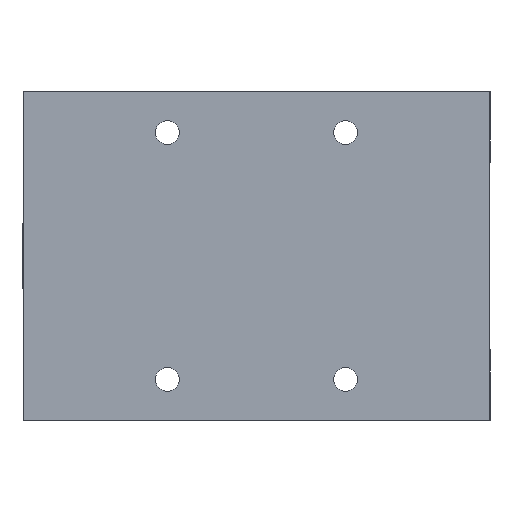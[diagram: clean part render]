
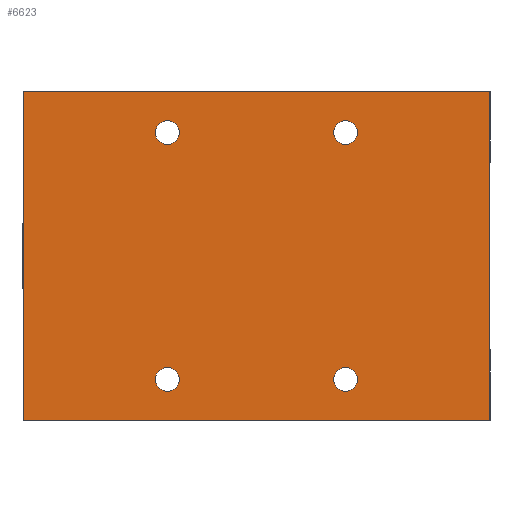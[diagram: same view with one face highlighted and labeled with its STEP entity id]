
A CAD part, front view. The second image highlights one B-rep face of the part: STEP entity #6623.
In plain terms, the highlighted planar face has unit normal (0, -1, 0).
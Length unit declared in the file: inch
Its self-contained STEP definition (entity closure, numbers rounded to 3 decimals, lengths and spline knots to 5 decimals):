
#410 = EDGE_CURVE ( 'NONE', #18102, #18103, #15606, .T. ) ;
#414 = EDGE_CURVE ( 'NONE', #18106, #18107, #15612, .T. ) ;
#436 = EDGE_CURVE ( 'NONE', #18110, #18124, #15642, .T. ) ;
#440 = EDGE_CURVE ( 'NONE', #18126, #18129, #15649, .T. ) ;
#444 = EDGE_CURVE ( 'NONE', #18129, #18126, #15655, .T. ) ;
#446 = EDGE_CURVE ( 'NONE', #18124, #18110, #15660, .T. ) ;
#450 = EDGE_CURVE ( 'NONE', #18064, #18136, #19592, .T. ) ;
#454 = EDGE_CURVE ( 'NONE', #18135, #18064, #19600, .T. ) ;
#457 = EDGE_CURVE ( 'NONE', #18137, #18135, #19603, .T. ) ;
#459 = EDGE_CURVE ( 'NONE', #18136, #18137, #19626, .T. ) ;
#460 = EDGE_CURVE ( 'NONE', #18103, #18102, #15677, .T. ) ;
#461 = EDGE_CURVE ( 'NONE', #18107, #18106, #15678, .T. ) ;
#3626 = AXIS2_PLACEMENT_3D ( 'NONE', #20515, #20518, #20519 ) ;
#4374 = ORIENTED_EDGE ( 'NONE', *, *, #444, .T. ) ;
#4375 = ORIENTED_EDGE ( 'NONE', *, *, #440, .T. ) ;
#4376 = ORIENTED_EDGE ( 'NONE', *, *, #460, .T. ) ;
#4377 = ORIENTED_EDGE ( 'NONE', *, *, #410, .T. ) ;
#4378 = ORIENTED_EDGE ( 'NONE', *, *, #461, .T. ) ;
#4379 = ORIENTED_EDGE ( 'NONE', *, *, #414, .T. ) ;
#4380 = ORIENTED_EDGE ( 'NONE', *, *, #446, .T. ) ;
#4381 = ORIENTED_EDGE ( 'NONE', *, *, #436, .T. ) ;
#4382 = ORIENTED_EDGE ( 'NONE', *, *, #450, .F. ) ;
#4383 = ORIENTED_EDGE ( 'NONE', *, *, #454, .F. ) ;
#4384 = ORIENTED_EDGE ( 'NONE', *, *, #457, .F. ) ;
#4385 = ORIENTED_EDGE ( 'NONE', *, *, #459, .F. ) ;
#6623 = ADVANCED_FACE ( 'NONE', ( #20510, #20512, #20514, #20516, #20509 ), #20511, .T. ) ;
#7923 = CARTESIAN_POINT ( 'NONE',  ( -2.125, -0.625, 1.5 ) ) ;
#7961 = CARTESIAN_POINT ( 'NONE',  ( -0.8125, -0.625, -1.234 ) ) ;
#7962 = CARTESIAN_POINT ( 'NONE',  ( -0.8125, -0.625, -1.016 ) ) ;
#7965 = CARTESIAN_POINT ( 'NONE',  ( 0.8125, -0.625, 1.016 ) ) ;
#7966 = CARTESIAN_POINT ( 'NONE',  ( 0.8125, -0.625, 1.234 ) ) ;
#7969 = CARTESIAN_POINT ( 'NONE',  ( 0.8125, -0.625, -1.234 ) ) ;
#7983 = CARTESIAN_POINT ( 'NONE',  ( 0.8125, -0.625, -1.016 ) ) ;
#7985 = CARTESIAN_POINT ( 'NONE',  ( -0.8125, -0.625, 1.016 ) ) ;
#7988 = CARTESIAN_POINT ( 'NONE',  ( -0.8125, -0.625, 1.234 ) ) ;
#7994 = CARTESIAN_POINT ( 'NONE',  ( -2.125, -0.625, -1.5 ) ) ;
#7995 = CARTESIAN_POINT ( 'NONE',  ( 2.125, -0.625, 1.5 ) ) ;
#7996 = CARTESIAN_POINT ( 'NONE',  ( 2.125, -0.625, -1.5 ) ) ;
#15606 = CIRCLE ( 'NONE', #15611, 0.109 ) ;
#15611 = AXIS2_PLACEMENT_3D ( 'NONE', #19482, #19483, #19484 ) ;
#15612 = CIRCLE ( 'NONE', #15617, 0.109 ) ;
#15617 = AXIS2_PLACEMENT_3D ( 'NONE', #19494, #19495, #19496 ) ;
#15642 = CIRCLE ( 'NONE', #15647, 0.109 ) ;
#15647 = AXIS2_PLACEMENT_3D ( 'NONE', #19559, #19560, #19561 ) ;
#15649 = CIRCLE ( 'NONE', #15653, 0.109 ) ;
#15653 = AXIS2_PLACEMENT_3D ( 'NONE', #19571, #19572, #19573 ) ;
#15655 = CIRCLE ( 'NONE', #15659, 0.109 ) ;
#15659 = AXIS2_PLACEMENT_3D ( 'NONE', #19581, #19582, #19583 ) ;
#15660 = CIRCLE ( 'NONE', #15663, 0.109 ) ;
#15663 = AXIS2_PLACEMENT_3D ( 'NONE', #19589, #19590, #19591 ) ;
#15666 = VECTOR ( 'NONE', #19604, 39.37008 ) ;
#15668 = VECTOR ( 'NONE', #19614, 39.37008 ) ;
#15671 = VECTOR ( 'NONE', #19622, 39.37008 ) ;
#15676 = VECTOR ( 'NONE', #19628, 39.37008 ) ;
#15677 = CIRCLE ( 'NONE', #15679, 0.109 ) ;
#15678 = CIRCLE ( 'NONE', #15681, 0.109 ) ;
#15679 = AXIS2_PLACEMENT_3D ( 'NONE', #19629, #19630, #19631 ) ;
#15681 = AXIS2_PLACEMENT_3D ( 'NONE', #19632, #19633, #19634 ) ;
#18064 = VERTEX_POINT ( 'NONE', #7923 ) ;
#18102 = VERTEX_POINT ( 'NONE', #7961 ) ;
#18103 = VERTEX_POINT ( 'NONE', #7962 ) ;
#18106 = VERTEX_POINT ( 'NONE', #7965 ) ;
#18107 = VERTEX_POINT ( 'NONE', #7966 ) ;
#18110 = VERTEX_POINT ( 'NONE', #7969 ) ;
#18124 = VERTEX_POINT ( 'NONE', #7983 ) ;
#18126 = VERTEX_POINT ( 'NONE', #7985 ) ;
#18129 = VERTEX_POINT ( 'NONE', #7988 ) ;
#18135 = VERTEX_POINT ( 'NONE', #7994 ) ;
#18136 = VERTEX_POINT ( 'NONE', #7995 ) ;
#18137 = VERTEX_POINT ( 'NONE', #7996 ) ;
#19482 = CARTESIAN_POINT ( 'NONE',  ( -0.8125, -0.625, -1.125 ) ) ;
#19483 = DIRECTION ( 'NONE',  ( 0., 1., 0. ) ) ;
#19484 = DIRECTION ( 'NONE',  ( 0., 0., -1. ) ) ;
#19494 = CARTESIAN_POINT ( 'NONE',  ( 0.8125, -0.625, 1.125 ) ) ;
#19495 = DIRECTION ( 'NONE',  ( 0., 1., 0. ) ) ;
#19496 = DIRECTION ( 'NONE',  ( 0., 0., -1. ) ) ;
#19559 = CARTESIAN_POINT ( 'NONE',  ( 0.8125, -0.625, -1.125 ) ) ;
#19560 = DIRECTION ( 'NONE',  ( 0., 1., 0. ) ) ;
#19561 = DIRECTION ( 'NONE',  ( 0., 0., 1. ) ) ;
#19571 = CARTESIAN_POINT ( 'NONE',  ( -0.8125, -0.625, 1.125 ) ) ;
#19572 = DIRECTION ( 'NONE',  ( 0., 1., 0. ) ) ;
#19573 = DIRECTION ( 'NONE',  ( 0., 0., 1. ) ) ;
#19581 = CARTESIAN_POINT ( 'NONE',  ( -0.8125, -0.625, 1.125 ) ) ;
#19582 = DIRECTION ( 'NONE',  ( 0., 1., 0. ) ) ;
#19583 = DIRECTION ( 'NONE',  ( 0., 0., 1. ) ) ;
#19589 = CARTESIAN_POINT ( 'NONE',  ( 0.8125, -0.625, -1.125 ) ) ;
#19590 = DIRECTION ( 'NONE',  ( 0., 1., 0. ) ) ;
#19591 = DIRECTION ( 'NONE',  ( 0., 0., 1. ) ) ;
#19592 = LINE ( 'NONE', #19602, #15666 ) ;
#19600 = LINE ( 'NONE', #19613, #15668 ) ;
#19602 = CARTESIAN_POINT ( 'NONE',  ( -2.125, -0.625, 1.5 ) ) ;
#19603 = LINE ( 'NONE', #19621, #15671 ) ;
#19604 = DIRECTION ( 'NONE',  ( 1., 0., 0. ) ) ;
#19613 = CARTESIAN_POINT ( 'NONE',  ( -2.125, -0.625, -1.5 ) ) ;
#19614 = DIRECTION ( 'NONE',  ( 0., 0., 1. ) ) ;
#19621 = CARTESIAN_POINT ( 'NONE',  ( -2.125, -0.625, -1.5 ) ) ;
#19622 = DIRECTION ( 'NONE',  ( -1., 0., 0. ) ) ;
#19626 = LINE ( 'NONE', #19627, #15676 ) ;
#19627 = CARTESIAN_POINT ( 'NONE',  ( 2.125, -0.625, -1.5 ) ) ;
#19628 = DIRECTION ( 'NONE',  ( 0., 0., -1. ) ) ;
#19629 = CARTESIAN_POINT ( 'NONE',  ( -0.8125, -0.625, -1.125 ) ) ;
#19630 = DIRECTION ( 'NONE',  ( 0., 1., 0. ) ) ;
#19631 = DIRECTION ( 'NONE',  ( 0., 0., -1. ) ) ;
#19632 = CARTESIAN_POINT ( 'NONE',  ( 0.8125, -0.625, 1.125 ) ) ;
#19633 = DIRECTION ( 'NONE',  ( 0., 1., 0. ) ) ;
#19634 = DIRECTION ( 'NONE',  ( 0., 0., -1. ) ) ;
#20509 = FACE_OUTER_BOUND ( 'NONE', #21065, .T. ) ;
#20510 = FACE_BOUND ( 'NONE', #21090, .T. ) ;
#20511 = PLANE ( 'NONE',  #3626 ) ;
#20512 = FACE_BOUND ( 'NONE', #21092, .T. ) ;
#20514 = FACE_BOUND ( 'NONE', #21094, .T. ) ;
#20515 = CARTESIAN_POINT ( 'NONE',  ( 2.125, -0.625, 1.5 ) ) ;
#20516 = FACE_BOUND ( 'NONE', #21095, .T. ) ;
#20518 = DIRECTION ( 'NONE',  ( 0., -1., 0. ) ) ;
#20519 = DIRECTION ( 'NONE',  ( 0., 0., -1. ) ) ;
#21065 = EDGE_LOOP ( 'NONE', ( #4382, #4383, #4384, #4385 ) ) ;
#21090 = EDGE_LOOP ( 'NONE', ( #4374, #4375 ) ) ;
#21092 = EDGE_LOOP ( 'NONE', ( #4376, #4377 ) ) ;
#21094 = EDGE_LOOP ( 'NONE', ( #4378, #4379 ) ) ;
#21095 = EDGE_LOOP ( 'NONE', ( #4380, #4381 ) ) ;
